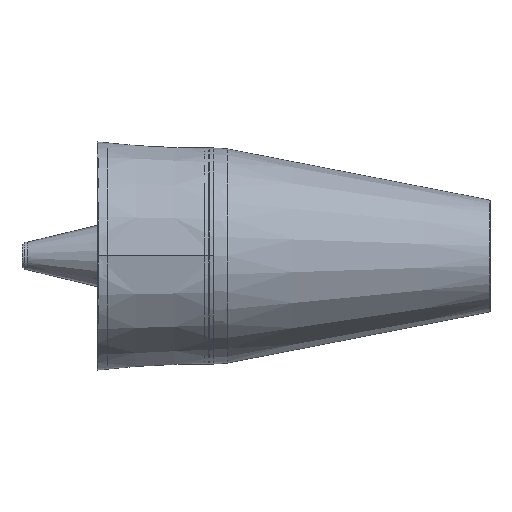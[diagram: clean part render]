
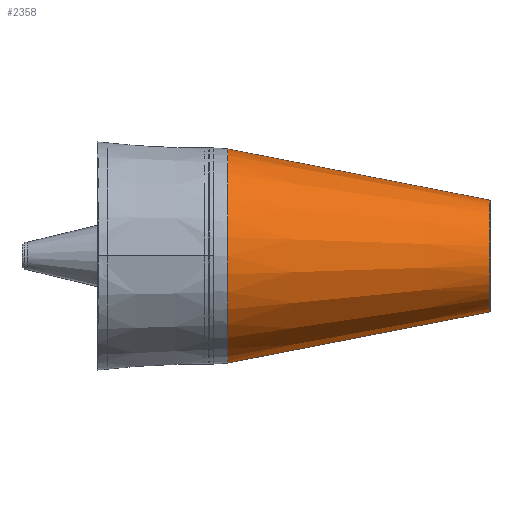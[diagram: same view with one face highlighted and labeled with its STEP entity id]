
A CAD part, top view. The second image highlights one B-rep face of the part: STEP entity #2358.
In plain terms, the highlighted conical face has half-angle 11.029 degrees and reference radius 76.962 mm.
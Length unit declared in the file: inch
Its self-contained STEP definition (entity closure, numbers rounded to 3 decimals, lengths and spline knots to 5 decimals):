
#150 = VECTOR ( 'NONE', #3873, 39.37008 ) ;
#163 = ORIENTED_EDGE ( 'NONE', *, *, #3571, .F. ) ;
#215 = EDGE_LOOP ( 'NONE', ( #2378, #1742, #1535, #163 ) ) ;
#541 = VERTEX_POINT ( 'NONE', #3542 ) ;
#858 = EDGE_CURVE ( 'NONE', #2977, #541, #3927, .T. ) ;
#875 = CARTESIAN_POINT ( 'NONE',  ( -10.82061, 0., 0. ) ) ;
#1038 = CARTESIAN_POINT ( 'NONE',  ( -10.82061, -3.03, 0. ) ) ;
#1151 = DIRECTION ( 'NONE',  ( -1., 0., 0. ) ) ;
#1278 = CARTESIAN_POINT ( 'NONE',  ( -10.82061, 3.03, 0. ) ) ;
#1318 = DIRECTION ( 'NONE',  ( 0., -1., 0. ) ) ;
#1514 = CIRCLE ( 'NONE', #3966, 3.03 ) ;
#1530 = FACE_OUTER_BOUND ( 'NONE', #215, .T. ) ;
#1535 = ORIENTED_EDGE ( 'NONE', *, *, #1667, .F. ) ;
#1590 = CARTESIAN_POINT ( 'NONE',  ( -10.82061, -3.03, 0. ) ) ;
#1667 = EDGE_CURVE ( 'NONE', #3899, #541, #3832, .T. ) ;
#1687 = CARTESIAN_POINT ( 'NONE',  ( -25.03261, 0., 0. ) ) ;
#1742 = ORIENTED_EDGE ( 'NONE', *, *, #858, .T. ) ;
#1839 = CARTESIAN_POINT ( 'NONE',  ( -10.82061, 0., 0. ) ) ;
#2354 = CARTESIAN_POINT ( 'NONE',  ( -25.03261, -5.8, 0. ) ) ;
#2358 = ADVANCED_FACE ( 'NONE', ( #1530 ), #4363, .T. ) ;
#2378 = ORIENTED_EDGE ( 'NONE', *, *, #2987, .T. ) ;
#2666 = AXIS2_PLACEMENT_3D ( 'NONE', #1687, #3126, #1318 ) ;
#2698 = DIRECTION ( 'NONE',  ( 0., -1., 0. ) ) ;
#2725 = AXIS2_PLACEMENT_3D ( 'NONE', #1839, #1151, #2943 ) ;
#2874 = CARTESIAN_POINT ( 'NONE',  ( -10.82061, 3.03, 0. ) ) ;
#2943 = DIRECTION ( 'NONE',  ( 0., -1., 0. ) ) ;
#2977 = VERTEX_POINT ( 'NONE', #1278 ) ;
#2987 = EDGE_CURVE ( 'NONE', #4192, #2977, #1514, .T. ) ;
#3056 = DIRECTION ( 'NONE',  ( -1., 0., 0. ) ) ;
#3126 = DIRECTION ( 'NONE',  ( -1., 0., 0. ) ) ;
#3167 = DIRECTION ( 'NONE',  ( -0.982, 0.191, 0. ) ) ;
#3542 = CARTESIAN_POINT ( 'NONE',  ( -25.03261, 5.8, 0. ) ) ;
#3571 = EDGE_CURVE ( 'NONE', #4192, #3899, #3975, .T. ) ;
#3832 = CIRCLE ( 'NONE', #2666, 5.8 ) ;
#3873 = DIRECTION ( 'NONE',  ( -0.982, -0.191, 0. ) ) ;
#3899 = VERTEX_POINT ( 'NONE', #2354 ) ;
#3927 = LINE ( 'NONE', #2874, #4686 ) ;
#3966 = AXIS2_PLACEMENT_3D ( 'NONE', #875, #3056, #2698 ) ;
#3975 = LINE ( 'NONE', #1038, #150 ) ;
#4192 = VERTEX_POINT ( 'NONE', #1590 ) ;
#4363 = CONICAL_SURFACE ( 'NONE', #2725, 3.03, 0.192 ) ;
#4686 = VECTOR ( 'NONE', #3167, 39.37008 ) ;
